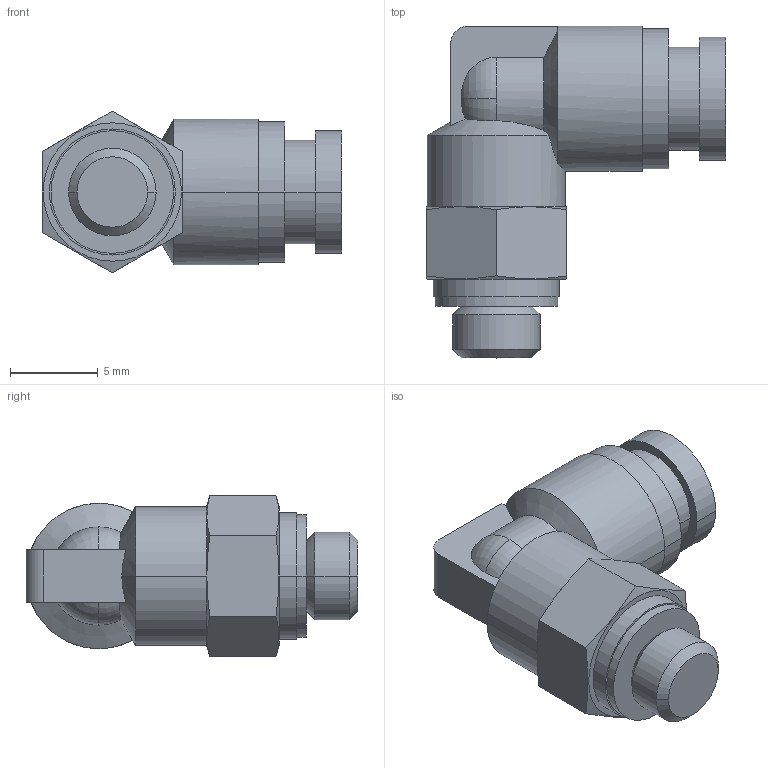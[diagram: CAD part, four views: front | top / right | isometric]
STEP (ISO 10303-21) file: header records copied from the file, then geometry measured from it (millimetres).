
FILE_DESCRIPTION( ( '' ), '1' );
FILE_NAME( 'G:/SMC狟婥/KQ2L23-M5A.stp', '2023-03-07T02:59:54', ( '' ), ( '' ), ' ', ' ', ' ' );
FILE_SCHEMA( ( 'CONFIG_CONTROL_DESIGN' ) );
Length unit declared in the file: millimetre
Products named in the file (1): 1
Bounding box: 17.1 x 18.95 x 9.24 mm (x, y, z)
Volume: 1059.2 mm3; surface area: 922.2 mm2
Topology: 1 solids, 1 shells, 58 faces, 135 edges, 86 vertices
Faces by surface type: cylinder 21, plane 21, cone 12, torus 4
Entity records: 1837 total; most frequent: CARTESIAN_POINT 510, DIRECTION 271, ORIENTED_EDGE 270, EDGE_CURVE 135, AXIS2_PLACEMENT_3D 113, VERTEX_POINT 86, EDGE_LOOP 65, ADVANCED_FACE 58
